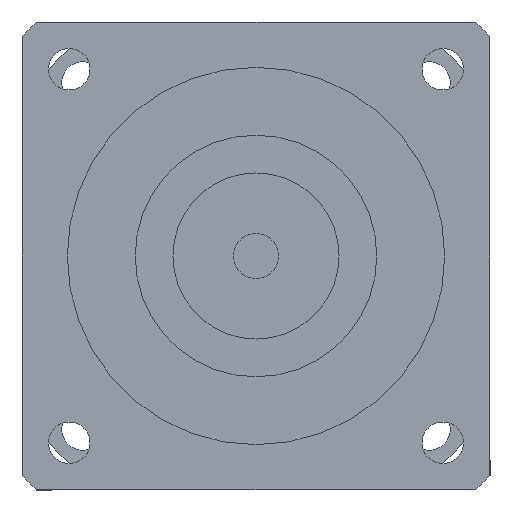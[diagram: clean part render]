
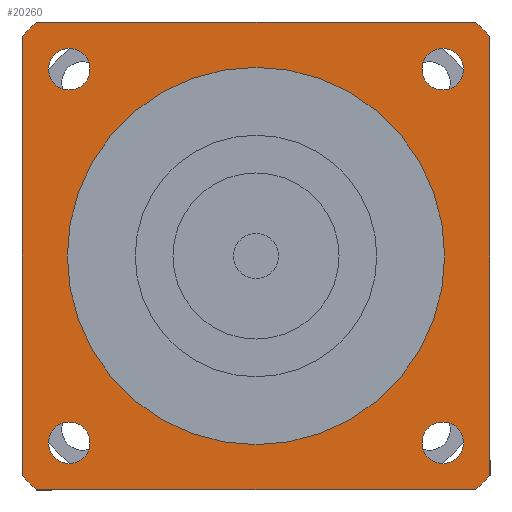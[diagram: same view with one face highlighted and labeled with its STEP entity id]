
A CAD part, left-side view. The second image highlights one B-rep face of the part: STEP entity #20260.
In plain terms, the highlighted planar face has unit normal (-1, 0, 0) as drawn and (0, 0, -1) by its records, which use the part's own axes.
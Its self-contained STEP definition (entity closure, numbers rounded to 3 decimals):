
#11110=CARTESIAN_POINT('',(-31.,29.073,-63.5));
#11120=VERTEX_POINT('',#11110);
#11270=CARTESIAN_POINT('',(-31.,-29.073,-63.5));
#11280=VERTEX_POINT('',#11270);
#11310=CARTESIAN_POINT('',(-31.,31.,-63.5));
#11320=DIRECTION('',(0.,-1.,0.));
#11330=VECTOR('',#11320,1000.);
#11340=LINE('',#11310,#11330);
#11350=EDGE_CURVE('',#11120,#11280,#11340,.T.);
#12930=CARTESIAN_POINT('',(-29.073,-31.,-63.5));
#12940=VERTEX_POINT('',#12930);
#12970=CARTESIAN_POINT('',(0.,0.,
-63.5));
#12980=DIRECTION('',(0.,0.,1.));
#12990=DIRECTION('',(0.,-1.,0.));
#13000=AXIS2_PLACEMENT_3D('',#12970,#12980,#12990);
#13010=CIRCLE('',#13000,42.5);
#13020=EDGE_CURVE('',#11280,#12940,#13010,.T.);
#17850=CARTESIAN_POINT('',(-29.073,31.,-63.5));
#17860=VERTEX_POINT('',#17850);
#17910=CARTESIAN_POINT('',(0.,0.,
-63.5));
#17920=DIRECTION('',(0.,0.,1.));
#17930=DIRECTION('',(0.,-1.,0.));
#17940=AXIS2_PLACEMENT_3D('',#17910,#17920,#17930);
#17950=CIRCLE('',#17940,42.5);
#17960=EDGE_CURVE('',#17860,#11120,#17950,.T.);
#18100=CARTESIAN_POINT('',(29.073,31.,-63.5));
#18110=VERTEX_POINT('',#18100);
#18160=CARTESIAN_POINT('',(31.,31.,-63.5));
#18170=DIRECTION('',(-1.,0.,0.));
#18180=VECTOR('',#18170,1000.);
#18190=LINE('',#18160,#18180);
#18200=EDGE_CURVE('',#18110,#17860,#18190,.T.);
#18310=CARTESIAN_POINT('',(0.,0.,
-63.5));
#18320=DIRECTION('',(0.,0.,1.));
#18330=DIRECTION('',(0.,-1.,0.));
#18340=AXIS2_PLACEMENT_3D('',#18310,#18320,#18330);
#18350=CIRCLE('',#18340,42.5);
#18360=CARTESIAN_POINT('',(31.,29.073,-63.5));
#18370=VERTEX_POINT('',#18360);
#18380=EDGE_CURVE('',#18370,#18110,#18350,.T.);
#18590=CARTESIAN_POINT('',(31.,-29.073,-63.5));
#18600=VERTEX_POINT('',#18590);
#18650=CARTESIAN_POINT('',(31.,-31.,-63.5));
#18660=DIRECTION('',(0.,1.,0.));
#18670=VECTOR('',#18660,1000.);
#18680=LINE('',#18650,#18670);
#18690=EDGE_CURVE('',#18600,#18370,#18680,.T.);
#18830=CARTESIAN_POINT('',(29.073,-31.,-63.5));
#18840=VERTEX_POINT('',#18830);
#18890=CARTESIAN_POINT('',(0.,0.,
-63.5));
#18900=DIRECTION('',(0.,0.,1.));
#18910=DIRECTION('',(0.,-1.,0.));
#18920=AXIS2_PLACEMENT_3D('',#18890,#18900,#18910);
#18930=CIRCLE('',#18920,42.5);
#18940=EDGE_CURVE('',#18840,#18600,#18930,.T.);
#19070=CARTESIAN_POINT('',(-31.,-31.,-63.5));
#19080=DIRECTION('',(1.,0.,0.));
#19090=VECTOR('',#19080,1000.);
#19100=LINE('',#19070,#19090);
#19110=EDGE_CURVE('',#12940,#18840,#19100,.T.);
#19160=CARTESIAN_POINT('',(-31.,31.,-63.5));
#19170=DIRECTION('',(0.,0.,1.));
#19180=DIRECTION('',(-1.,0.,0.));
#19190=AXIS2_PLACEMENT_3D('',#19160,#19170,#19180);
#19200=PLANE('',#19190);
#19210=CARTESIAN_POINT('',(24.749,-24.749,-63.5));
#19220=DIRECTION('',(0.,0.,-1.));
#19230=DIRECTION('',(1.,0.,0.));
#19240=AXIS2_PLACEMENT_3D('',#19210,#19220,#19230);
#19250=CIRCLE('',#19240,2.75);
#19260=CARTESIAN_POINT('',(27.499,-24.749,-63.5));
#19270=VERTEX_POINT('',#19260);
#19280=CARTESIAN_POINT('',(24.749,-27.499,-63.5));
#19290=VERTEX_POINT('',#19280);
#19300=EDGE_CURVE('',#19270,#19290,#19250,.T.);
#19310=ORIENTED_EDGE('',*,*,#19300,.F.);
#19320=CARTESIAN_POINT('',(24.749,-21.999,-63.5));
#19330=VERTEX_POINT('',#19320);
#19340=EDGE_CURVE('',#19290,#19330,#19250,.T.);
#19350=ORIENTED_EDGE('',*,*,#19340,.F.);
#19360=EDGE_CURVE('',#19330,#19270,#19250,.T.);
#19370=ORIENTED_EDGE('',*,*,#19360,.F.);
#19380=EDGE_LOOP('',(#19370,#19350,#19310));
#19390=FACE_BOUND('',#19380,.T.);
#19400=CARTESIAN_POINT('',(24.749,24.749,-63.5));
#19410=DIRECTION('',(0.,0.,-1.));
#19420=DIRECTION('',(0.,1.,0.));
#19430=AXIS2_PLACEMENT_3D('',#19400,#19410,#19420);
#19440=CIRCLE('',#19430,2.75);
#19450=CARTESIAN_POINT('',(24.749,27.499,-63.5));
#19460=VERTEX_POINT('',#19450);
#19470=CARTESIAN_POINT('',(27.499,24.749,-63.5));
#19480=VERTEX_POINT('',#19470);
#19490=EDGE_CURVE('',#19460,#19480,#19440,.T.);
#19500=ORIENTED_EDGE('',*,*,#19490,.F.);
#19510=CARTESIAN_POINT('',(21.999,24.749,-63.5));
#19520=VERTEX_POINT('',#19510);
#19530=EDGE_CURVE('',#19480,#19520,#19440,.T.);
#19540=ORIENTED_EDGE('',*,*,#19530,.F.);
#19550=EDGE_CURVE('',#19520,#19460,#19440,.T.);
#19560=ORIENTED_EDGE('',*,*,#19550,.F.);
#19570=EDGE_LOOP('',(#19560,#19540,#19500));
#19580=FACE_BOUND('',#19570,.T.);
#19590=CARTESIAN_POINT('',(-24.749,24.749,-63.5));
#19600=DIRECTION('',(0.,0.,-1.));
#19610=DIRECTION('',(-1.,0.,0.));
#19620=AXIS2_PLACEMENT_3D('',#19590,#19600,#19610);
#19630=CIRCLE('',#19620,2.75);
#19640=CARTESIAN_POINT('',(-27.499,24.749,-63.5));
#19650=VERTEX_POINT('',#19640);
#19660=CARTESIAN_POINT('',(-24.749,27.499,-63.5));
#19670=VERTEX_POINT('',#19660);
#19680=EDGE_CURVE('',#19650,#19670,#19630,.T.);
#19690=ORIENTED_EDGE('',*,*,#19680,.F.);
#19700=CARTESIAN_POINT('',(-24.749,21.999,-63.5));
#19710=VERTEX_POINT('',#19700);
#19720=EDGE_CURVE('',#19670,#19710,#19630,.T.);
#19730=ORIENTED_EDGE('',*,*,#19720,.F.);
#19740=EDGE_CURVE('',#19710,#19650,#19630,.T.);
#19750=ORIENTED_EDGE('',*,*,#19740,.F.);
#19760=EDGE_LOOP('',(#19750,#19730,#19690));
#19770=FACE_BOUND('',#19760,.T.);
#19780=CARTESIAN_POINT('',(-24.749,-24.749,-63.5));
#19790=DIRECTION('',(0.,0.,-1.));
#19800=DIRECTION('',(0.,-1.,0.));
#19810=AXIS2_PLACEMENT_3D('',#19780,#19790,#19800);
#19820=CIRCLE('',#19810,2.75);
#19830=CARTESIAN_POINT('',(-24.749,-27.499,-63.5));
#19840=VERTEX_POINT('',#19830);
#19850=CARTESIAN_POINT('',(-27.499,-24.749,-63.5));
#19860=VERTEX_POINT('',#19850);
#19870=EDGE_CURVE('',#19840,#19860,#19820,.T.);
#19880=ORIENTED_EDGE('',*,*,#19870,.F.);
#19890=CARTESIAN_POINT('',(-21.999,-24.749,-63.5));
#19900=VERTEX_POINT('',#19890);
#19910=EDGE_CURVE('',#19860,#19900,#19820,.T.);
#19920=ORIENTED_EDGE('',*,*,#19910,.F.);
#19930=EDGE_CURVE('',#19900,#19840,#19820,.T.);
#19940=ORIENTED_EDGE('',*,*,#19930,.F.);
#19950=EDGE_LOOP('',(#19940,#19920,#19880));
#19960=FACE_BOUND('',#19950,.T.);
#19970=ORIENTED_EDGE('',*,*,#13020,.F.);
#19980=ORIENTED_EDGE('',*,*,#19110,.F.);
#19990=ORIENTED_EDGE('',*,*,#18940,.F.);
#20000=ORIENTED_EDGE('',*,*,#18690,.F.);
#20010=ORIENTED_EDGE('',*,*,#18380,.F.);
#20020=ORIENTED_EDGE('',*,*,#18200,.F.);
#20030=ORIENTED_EDGE('',*,*,#17960,.F.);
#20040=ORIENTED_EDGE('',*,*,#11350,.F.);
#20050=EDGE_LOOP('',(#20040,#20030,#20020,#20010,#20000,#19990,#19980,
#19970));
#20060=FACE_OUTER_BOUND('',#20050,.T.);
#20070=CARTESIAN_POINT('',(0.,0.,
-63.5));
#20080=DIRECTION('',(0.,0.,1.));
#20090=DIRECTION('',(0.,-1.,0.));
#20100=AXIS2_PLACEMENT_3D('',#20070,#20080,#20090);
#20110=CIRCLE('',#20100,25.);
#20120=CARTESIAN_POINT('',(25.,0.,-63.5));
#20130=VERTEX_POINT('',#20120);
#20140=CARTESIAN_POINT('',(-25.,0.,-63.5));
#20150=VERTEX_POINT('',#20140);
#20160=EDGE_CURVE('',#20130,#20150,#20110,.T.);
#20170=ORIENTED_EDGE('',*,*,#20160,.T.);
#20180=CARTESIAN_POINT('',(0.,-25.,-63.5));
#20190=VERTEX_POINT('',#20180);
#20200=EDGE_CURVE('',#20190,#20130,#20110,.T.);
#20210=ORIENTED_EDGE('',*,*,#20200,.T.);
#20220=EDGE_CURVE('',#20150,#20190,#20110,.T.);
#20230=ORIENTED_EDGE('',*,*,#20220,.T.);
#20240=EDGE_LOOP('',(#20230,#20210,#20170));
#20250=FACE_BOUND('',#20240,.T.);
#20260=ADVANCED_FACE('',(#19390,#19580,#19770,#19960,#20060,#20250),
#19200,.F.);
